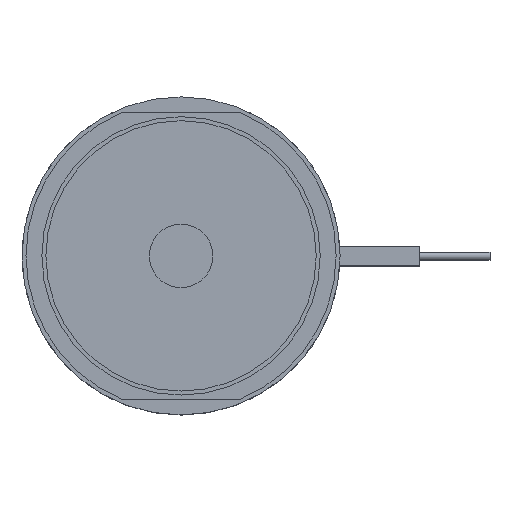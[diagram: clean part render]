
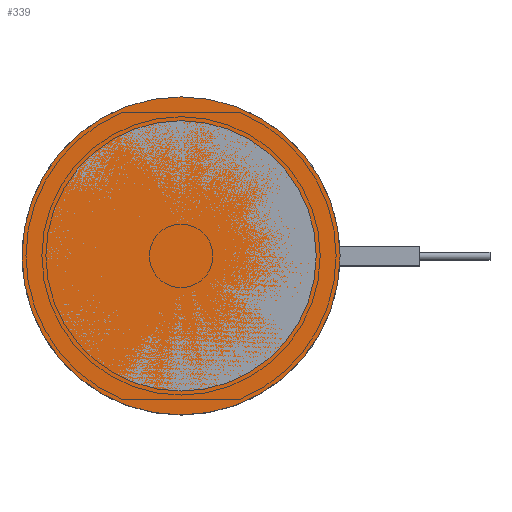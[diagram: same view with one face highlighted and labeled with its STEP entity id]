
A CAD part, top view. The second image highlights one B-rep face of the part: STEP entity #339.
In plain terms, the highlighted planar face has unit normal (0, 0, 1).
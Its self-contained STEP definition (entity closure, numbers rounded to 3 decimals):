
#249=CIRCLE('',#1198,20.);
#339=ADVANCED_FACE('',(#446),#407,.F.);
#407=PLANE('',#1199);
#446=FACE_OUTER_BOUND('',#534,.T.);
#534=EDGE_LOOP('',(#682));
#682=ORIENTED_EDGE('',*,*,#985,.F.);
#885=VERTEX_POINT('',#1764);
#985=EDGE_CURVE('',#885,#885,#249,.T.);
#1198=AXIS2_PLACEMENT_3D('',#1763,#1415,#1416);
#1199=AXIS2_PLACEMENT_3D('',#1765,#1417,#1418);
#1415=DIRECTION('',(0.,0.,-1.));
#1416=DIRECTION('',(-1.,0.,0.));
#1417=DIRECTION('',(0.,0.,-1.));
#1418=DIRECTION('',(-1.,0.,0.));
#1763=CARTESIAN_POINT('',(0.,0.,0.));
#1764=CARTESIAN_POINT('',(-20.,0.,0.));
#1765=CARTESIAN_POINT('',(0.,0.,0.));
